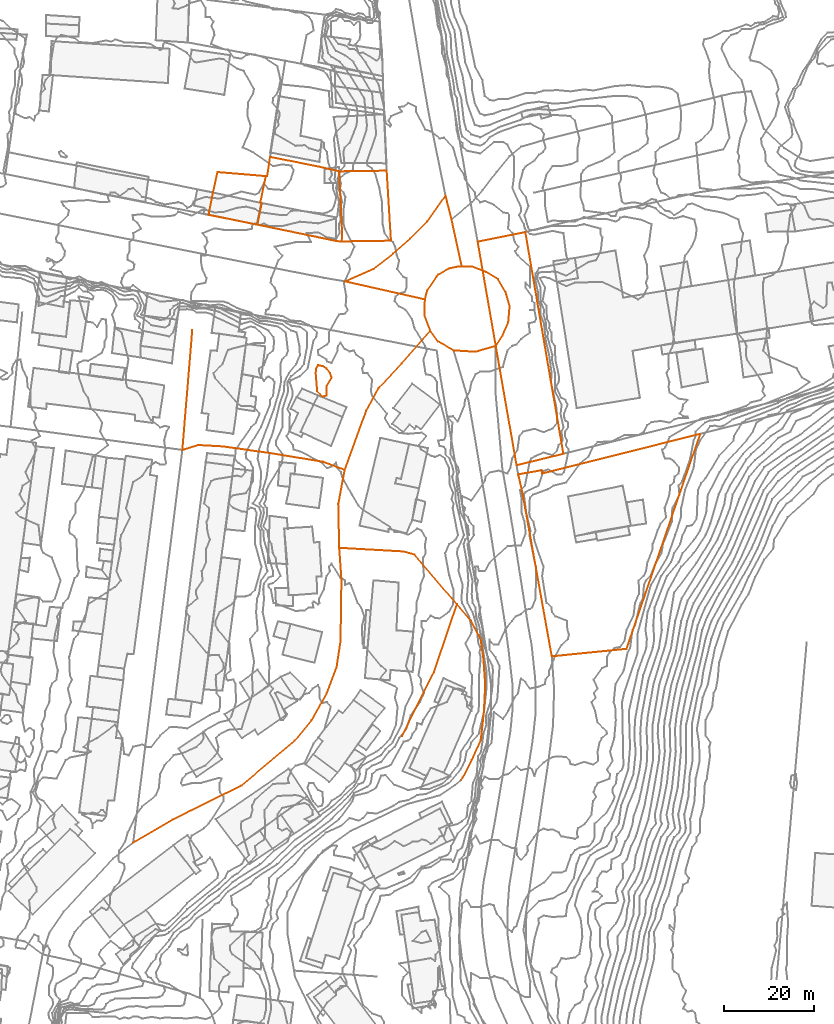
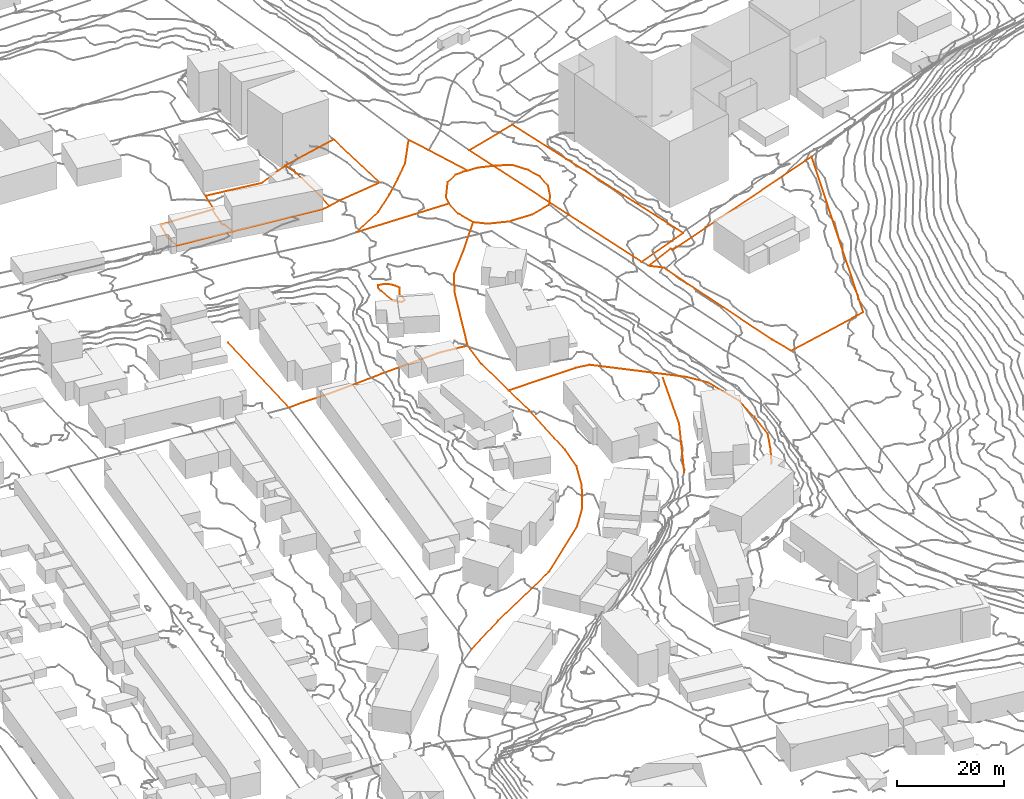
# Not in any storey, part 333 of 419: 23 proxies.
"""IFC2X3 model written with IfcOpenShell, lengths in metres."""

from ifc_helpers import new_model, entity, si_unit, frame, origin_with_axes, place, context, subcontext, project, element, save


model = new_model("IFC2X3")

# Units and contexts
model_context = context("Model", 3, precision=1e-05, world=origin_with_axes())
body_context = subcontext(model_context, "Body", "Model", "MODEL_VIEW")
ifc_project = project(units=[si_unit("AREAUNIT", "SQUARE_METRE"), si_unit("LENGTHUNIT", "METRE")], contexts=[model_context])

# Proxies
proxy_1_placement = place(None, frame((635.1920204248, 821.8976909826, 50.0), z_axis=(0.0, 0.0, 1.0), x_axis=(1.0, 0.0, 0.0)))
element("IfcBuildingElementProxy", 1, at=proxy_1_placement, Name="Route 21", ObjectType="NOTDEFINED", context=body_context, shape_type="GeometricCurveSet", body=[
    entity("IfcGeometricCurveSet", [entity("IfcPolyline", [entity("IfcCartesianPoint", [0.0, 0.0, 0.0]), entity("IfcCartesianPoint", [4.8, -0.2999999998, 0.1]), entity("IfcCartesianPoint", [9.3, 1.0, 0.0])])]),
])
proxy_2_placement = place(None, frame((634.6920204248, 850.9976909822, 48.8), z_axis=(0.0, 0.0, 1.0), x_axis=(1.0, 0.0, 0.0)))
element("IfcBuildingElementProxy", 2, at=proxy_2_placement, Name="Route 41", ObjectType="NOTDEFINED", context=body_context, shape_type="GeometricCurveSet", body=[
    entity("IfcGeometricCurveSet", [entity("IfcPolyline", [entity("IfcCartesianPoint", [0.0, 0.0, 0.0]), entity("IfcCartesianPoint", [2.3, -10.5, 0.9])])]),
])
proxy_3_placement = place(None, frame((564.0920204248, 712.6976909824, 43.5), z_axis=(0.0, 0.0, 1.0), x_axis=(1.0, 0.0, 0.0)))
element("IfcBuildingElementProxy", 3, at=proxy_3_placement, Name="Route 69", ObjectType="NOTDEFINED", context=body_context, shape_type="GeometricCurveSet", body=[
    entity("IfcGeometricCurveSet", [entity("IfcPolyline", [entity("IfcCartesianPoint", [45.7, 65.4000000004, 3.4]), entity("IfcCartesianPoint", [46.2, 58.5, 2.9]), entity("IfcCartesianPoint", [46.0, 44.7000000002, 2.3]), entity("IfcCartesianPoint", [45.1, 38.9000000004, 2.4]), entity("IfcCartesianPoint", [42.9, 33.1000000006, 2.4]), entity("IfcCartesianPoint", [39.6, 27.2000000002, 1.8]), entity("IfcCartesianPoint", [35.8, 22.6000000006, 1.7]), entity("IfcCartesianPoint", [24.0, 12.7000000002, 1.5]), entity("IfcCartesianPoint", [8.7, 5.1000000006, 0.4]), entity("IfcCartesianPoint", [0.0, 0.0, 0.0])])]),
])
proxy_4_placement = place(None, frame((611.0920204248, 837.1976909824, 46.7), z_axis=(0.0, 0.0, 1.0), x_axis=(1.0, 0.0, 0.0)))
element("IfcBuildingElementProxy", 4, at=proxy_4_placement, Name="Route 80", ObjectType="NOTDEFINED", context=body_context, shape_type="GeometricCurveSet", body=[
    entity("IfcGeometricCurveSet", [entity("IfcPolyline", [entity("IfcCartesianPoint", [0.0, 0.0, 0.0]), entity("IfcCartesianPoint", [6.3, 2.7999999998, 0.7]), entity("IfcCartesianPoint", [10.7, 6.2000000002, 1.1]), entity("IfcCartesianPoint", [14.4, 9.5, 1.3]), entity("IfcCartesianPoint", [18.2, 13.2999999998, 1.4]), entity("IfcCartesianPoint", [22.3, 19.1000000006, 1.7])])]),
])
proxy_5_placement = place(None, frame((609.5920204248, 787.7976909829, 47.1), z_axis=(0.0, 0.0, 1.0), x_axis=(1.0, 0.0, 0.0)))
element("IfcBuildingElementProxy", 5, at=proxy_5_placement, Name="Route 88", ObjectType="NOTDEFINED", context=body_context, shape_type="GeometricCurveSet", body=[
    entity("IfcGeometricCurveSet", [entity("IfcPolyline", [entity("IfcCartesianPoint", [1.4, 7.5999999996, -0.9]), entity("IfcCartesianPoint", [0.0, 0.0, 0.0]), entity("IfcCartesianPoint", [0.2, -9.7000000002, -0.2])])]),
])
proxy_6_placement = place(None, frame((628.7920204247, 833.1976909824, 49.5), z_axis=(0.0, 0.0, 1.0), x_axis=(1.0, 0.0, 0.0)))
element("IfcBuildingElementProxy", 6, at=proxy_6_placement, Name="Route 108", ObjectType="NOTDEFINED", context=body_context, shape_type="GeometricCurveSet", body=[
    entity("IfcGeometricCurveSet", [entity("IfcPolyline", [entity("IfcCartesianPoint", [8.2000000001, 7.2999999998, 0.2]), entity("IfcCartesianPoint", [7.3, 7.2999999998, 0.3]), entity("IfcCartesianPoint", [5.4, 6.9000000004, 0.5]), entity("IfcCartesianPoint", [2.9, 5.5, 0.5]), entity("IfcCartesianPoint", [2.6000000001, 5.1000000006, 0.4]), entity("IfcCartesianPoint", [0.5, 2.0, 0.1]), entity("IfcCartesianPoint", [0.0, 0.0, 0.0])])]),
])
proxy_7_placement = place(None, frame((623.6920204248, 736.3976909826, 48.6330005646), z_axis=(0.0, 0.0, 1.0), x_axis=(1.0, 0.0, 0.0)))
element("IfcBuildingElementProxy", 7, at=proxy_7_placement, Name="Route 127", ObjectType="NOTDEFINED", context=body_context, shape_type="GeometricCurveSet", body=[
    entity("IfcGeometricCurveSet", [entity("IfcPolyline", [entity("IfcCartesianPoint", [12.2000000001, 29.2000000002, -0.2951998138]), entity("IfcCartesianPoint", [7.1, 14.2000000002, 0.0329982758]), entity("IfcCartesianPoint", [0.0, 0.0, 0.0])])]),
])
proxy_8_placement = place(None, frame((635.8920204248, 765.5976909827, 49.1), z_axis=(0.0, 0.0, 1.0), x_axis=(1.0, 0.0, 0.0)))
element("IfcBuildingElementProxy", 8, at=proxy_8_placement, Name="Route 128", ObjectType="NOTDEFINED", context=body_context, shape_type="GeometricCurveSet", body=[
    entity("IfcGeometricCurveSet", [entity("IfcPolyline", [entity("IfcCartesianPoint", [0.8999999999, -39.0, 2.8]), entity("IfcCartesianPoint", [1.2999999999, -38.5, 2.8]), entity("IfcCartesianPoint", [3.2999999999, -34.6000000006, 2.8]), entity("IfcCartesianPoint", [5.2999999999, -30.1000000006, 2.8]), entity("IfcCartesianPoint", [6.0, -23.9000000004, 2.6]), entity("IfcCartesianPoint", [6.2999999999, -17.7999999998, 2.4]), entity("IfcCartesianPoint", [5.8999999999, -12.2000000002, 1.4]), entity("IfcCartesianPoint", [5.2999999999, -7.7999999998, 0.9]), entity("IfcCartesianPoint", [4.7999999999, -6.7999999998, 0.8]), entity("IfcCartesianPoint", [3.1, -3.6000000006, 0.4]), entity("IfcCartesianPoint", [0.0, 0.0, 0.0])])]),
])
proxy_9_placement = place(None, frame((574.9920204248, 799.7976909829, 42.0), z_axis=(0.0, 0.0, 1.0), x_axis=(1.0, 0.0, 0.0)))
element("IfcBuildingElementProxy", 9, at=proxy_9_placement, Name="Route 131", ObjectType="NOTDEFINED", context=body_context, shape_type="GeometricCurveSet", body=[
    entity("IfcGeometricCurveSet", [entity("IfcPolyline", [entity("IfcCartesianPoint", [36.0, -4.4000000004, 4.2]), entity("IfcCartesianPoint", [31.1, -2.6000000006, 3.3]), entity("IfcCartesianPoint", [19.6, -0.7000000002, 1.3]), entity("IfcCartesianPoint", [8.9, 0.7999999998, -0.5]), entity("IfcCartesianPoint", [3.5, 1.0999999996, -0.7]), entity("IfcCartesianPoint", [0.0, 0.0, 0.0])])]),
])
proxy_10_placement = place(None, frame((609.7920204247, 778.0976909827, 46.9), z_axis=(0.0, 0.0, 1.0), x_axis=(1.0, 0.0, 0.0)))
element("IfcBuildingElementProxy", 10, at=proxy_10_placement, Name="Route 139", ObjectType="NOTDEFINED", context=body_context, shape_type="GeometricCurveSet", body=[
    entity("IfcGeometricCurveSet", [entity("IfcPolyline", [entity("IfcCartesianPoint", [26.1000000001, -12.5, 2.2]), entity("IfcCartesianPoint", [16.7000000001, -1.5, 0.9]), entity("IfcCartesianPoint", [14.2000000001, -0.7999999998, 0.7]), entity("IfcCartesianPoint", [0.0, 0.0, 0.0])])]),
])
proxy_11_placement = place(None, frame((628.6920204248, 829.6976909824, 49.4), z_axis=(0.0, 0.0, 1.0), x_axis=(1.0, 0.0, 0.0)))
element("IfcBuildingElementProxy", 11, at=proxy_11_placement, Name="Route 173", ObjectType="NOTDEFINED", context=body_context, shape_type="GeometricCurveSet", body=[
    entity("IfcGeometricCurveSet", [entity("IfcPolyline", [entity("IfcCartesianPoint", [0.1, 3.5, 0.1]), entity("IfcCartesianPoint", [0.0, 0.0, 0.0]), entity("IfcCartesianPoint", [1.3, -3.3999999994, -0.4])])]),
])
proxy_12_placement = place(None, frame((636.9920204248, 840.4976909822, 49.7), z_axis=(0.0, 0.0, 1.0), x_axis=(1.0, 0.0, 0.0)))
element("IfcBuildingElementProxy", 12, at=proxy_12_placement, Name="Route 195", ObjectType="NOTDEFINED", context=body_context, shape_type="GeometricCurveSet", body=[
    entity("IfcGeometricCurveSet", [entity("IfcPolyline", [entity("IfcCartesianPoint", [7.5, -17.5999999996, 0.3]), entity("IfcCartesianPoint", [9.0, -15.2999999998, 0.4]), entity("IfcCartesianPoint", [10.2999999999, -12.2999999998, 0.4]), entity("IfcCartesianPoint", [10.6, -8.7999999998, 0.3]), entity("IfcCartesianPoint", [9.7, -5.5999999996, 0.2]), entity("IfcCartesianPoint", [8.0, -2.7999999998, 0.2]), entity("IfcCartesianPoint", [5.4, -1.1999999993, 0.0]), entity("IfcCartesianPoint", [2.2999999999, 0.0, -0.1]), entity("IfcCartesianPoint", [0.0, 0.0, 0.0])])]),
])
proxy_13_placement = place(None, frame((633.3920204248, 856.2976909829, 48.4), z_axis=(0.0, 0.0, 1.0), x_axis=(1.0, 0.0, 0.0)))
element("IfcBuildingElementProxy", 13, at=proxy_13_placement, Name="Route 212", ObjectType="NOTDEFINED", context=body_context, shape_type="GeometricCurveSet", body=[
    entity("IfcGeometricCurveSet", [entity("IfcPolyline", [entity("IfcCartesianPoint", [0.0, 0.0, 0.0]), entity("IfcCartesianPoint", [1.2999999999, -5.3000000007, 0.4])])]),
])
proxy_14_placement = place(None, frame((610.9920204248, 795.3976909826, 46.2), z_axis=(0.0, 0.0, 1.0), x_axis=(1.0, 0.0, 0.0)))
element("IfcBuildingElementProxy", 14, at=proxy_14_placement, Name="Route 227", ObjectType="NOTDEFINED", context=body_context, shape_type="GeometricCurveSet", body=[
    entity("IfcGeometricCurveSet", [entity("IfcPolyline", [entity("IfcCartesianPoint", [19.0, 30.9000000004, 2.8]), entity("IfcCartesianPoint", [12.6, 23.5999999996, 2.7]), entity("IfcCartesianPoint", [7.5, 18.0999999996, 2.7]), entity("IfcCartesianPoint", [4.7999999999, 13.2000000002, 2.5]), entity("IfcCartesianPoint", [0.0, 0.0, 0.0])])]),
])
proxy_15_placement = place(None, frame((629.9920204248, 826.2976909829, 49.0), z_axis=(0.0, 0.0, 1.0), x_axis=(1.0, 0.0, 0.0)))
element("IfcBuildingElementProxy", 15, at=proxy_15_placement, Name="Route 271", ObjectType="NOTDEFINED", context=body_context, shape_type="GeometricCurveSet", body=[
    entity("IfcGeometricCurveSet", [entity("IfcPolyline", [entity("IfcCartesianPoint", [0.0, 0.0, 0.0]), entity("IfcCartesianPoint", [1.7, -2.4000000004, 0.5]), entity("IfcCartesianPoint", [5.2, -4.4000000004, 1.0])])]),
])
proxy_16_placement = place(None, frame((611.0920204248, 837.1976909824, 46.7), z_axis=(0.0, 0.0, 1.0), x_axis=(1.0, 0.0, 0.0)))
element("IfcBuildingElementProxy", 16, at=proxy_16_placement, Name="Route 283", ObjectType="NOTDEFINED", context=body_context, shape_type="GeometricCurveSet", body=[
    entity("IfcGeometricCurveSet", [entity("IfcPolyline", [entity("IfcCartesianPoint", [17.7, -4.0, 2.8]), entity("IfcCartesianPoint", [0.0, 0.0, 0.0])])]),
])
proxy_17_placement = place(None, frame((574.9920204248, 799.7976909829, 42.0), z_axis=(0.0, 0.0, 1.0), x_axis=(1.0, 0.0, 0.0)))
element("IfcBuildingElementProxy", 17, at=proxy_17_placement, Name="Route 306", ObjectType="NOTDEFINED", context=body_context, shape_type="GeometricCurveSet", body=[
    entity("IfcGeometricCurveSet", [entity("IfcPolyline", [entity("IfcCartesianPoint", [0.0, 0.0, 0.0]), entity("IfcCartesianPoint", [2.2, 26.5999999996, -2.1])])]),
])
proxy_18_placement = place(None, frame((580.8020204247, 851.9476909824, 45.322770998), z_axis=(0.0, 0.0, 1.0), x_axis=(1.0, 0.0, 0.0)))
element("IfcBuildingElementProxy", 18, at=proxy_18_placement, Name="Cadastre 65", ObjectType="NOTDEFINED", context=body_context, shape_type="GeometricCurveSet", body=[
    entity("IfcGeometricCurveSet", [entity("IfcPolyline", [entity("IfcCartesianPoint", [12.7000000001, 8.6100000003, -1.4391836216]), entity("IfcCartesianPoint", [11.4800000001, 2.7600000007, -0.8925592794]), entity("IfcCartesianPoint", [11.8, 2.6900000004, -0.9567672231]), entity("IfcCartesianPoint", [10.8600000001, -2.1600000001, 0.7387439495]), entity("IfcCartesianPoint", [10.66, -2.1200000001, 0.7236130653]), entity("IfcCartesianPoint", [0.0, 0.0, 0.0]), entity("IfcCartesianPoint", [0.9800000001, 4.9900000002, -1.5328972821]), entity("IfcCartesianPoint", [1.9800000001, 9.5, -1.6952654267]), entity("IfcCartesianPoint", [12.7000000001, 8.6100000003, -1.4391836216])])]),
])
proxy_19_placement = place(None, frame((591.6620204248, 849.7876909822, 46.0615149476), z_axis=(0.0, 0.0, 1.0), x_axis=(1.0, 0.0, 0.0)))
element("IfcBuildingElementProxy", 19, at=proxy_19_placement, Name="Cadastre 66", ObjectType="NOTDEFINED", context=body_context, shape_type="GeometricCurveSet", body=[
    entity("IfcGeometricCurveSet", [entity("IfcPolyline", [entity("IfcCartesianPoint", [2.7799999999, 15.0300000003, -1.9556256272]), entity("IfcCartesianPoint", [13.6799999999, 12.8600000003, -1.5340143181]), entity("IfcCartesianPoint", [18.11, 11.8300000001, 1.5006694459]), entity("IfcCartesianPoint", [18.2899999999, 8.3300000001, 2.0968533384]), entity("IfcCartesianPoint", [18.74, -1.0899999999, 1.6597547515]), entity("IfcCartesianPoint", [18.7, -3.75, 1.5313603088]), entity("IfcCartesianPoint", [17.38, -3.6299999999, 1.2340843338]), entity("IfcCartesianPoint", [0.0, 0.0, 0.0]), entity("IfcCartesianPoint", [0.9399999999, 4.8500000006, -1.6955111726]), entity("IfcCartesianPoint", [0.62, 4.9200000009, -1.6313032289]), entity("IfcCartesianPoint", [1.84, 10.7700000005, -2.1779275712]), entity("IfcCartesianPoint", [2.1399999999, 10.7400000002, -2.1677422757]), entity("IfcCartesianPoint", [2.7799999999, 15.0300000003, -1.9556256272])])]),
])
proxy_20_placement = place(None, frame((609.7720204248, 861.6176909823, 47.5621843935), z_axis=(0.0, 0.0, 1.0), x_axis=(1.0, 0.0, 0.0)))
element("IfcBuildingElementProxy", 20, at=proxy_20_placement, Name="Cadastre 72", ObjectType="NOTDEFINED", context=body_context, shape_type="GeometricCurveSet", body=[
    entity("IfcGeometricCurveSet", [entity("IfcPolyline", [entity("IfcCartesianPoint", [10.5499999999, 0.1500000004, 2.2154192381]), entity("IfcCartesianPoint", [11.51, -15.3799999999, 1.4319358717]), entity("IfcCartesianPoint", [2.9199999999, -15.5099999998, 0.492515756]), entity("IfcCartesianPoint", [0.59, -15.5800000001, 0.0306908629]), entity("IfcCartesianPoint", [0.63, -12.9199999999, 0.1590853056]), entity("IfcCartesianPoint", [0.1799999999, -3.5, 0.5961838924]), entity("IfcCartesianPoint", [0.0, 0.0, 0.0]), entity("IfcCartesianPoint", [10.5499999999, 0.1500000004, 2.2154192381])])]),
])
proxy_21_placement = place(None, frame((640.5120204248, 846.0276909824, 49.7531914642), z_axis=(0.0, 0.0, 1.0), x_axis=(1.0, 0.0, 0.0)))
element("IfcBuildingElementProxy", 21, at=proxy_21_placement, Name="Cadastre 77", ObjectType="NOTDEFINED", context=body_context, shape_type="GeometricCurveSet", body=[
    entity("IfcGeometricCurveSet", [entity("IfcPolyline", [entity("IfcCartesianPoint", [10.58, 2.1400000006, 0.8468086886]), entity("IfcCartesianPoint", [19.01, -47.0499999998, 3.0059785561]), entity("IfcCartesianPoint", [8.63, -49.5999999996, 1.5941545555]), entity("IfcCartesianPoint", [0.0, 0.0, 0.0]), entity("IfcCartesianPoint", [10.58, 2.1400000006, 0.8468086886])])]),
])
proxy_22_placement = place(None, frame((649.5120204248, 794.4076909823, 51.5433078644), z_axis=(0.0, 0.0, 1.0), x_axis=(1.0, 0.0, 0.0)))
element("IfcBuildingElementProxy", 22, at=proxy_22_placement, Name="Cadastre 78", ObjectType="NOTDEFINED", context=body_context, shape_type="GeometricCurveSet", body=[
    entity("IfcGeometricCurveSet", [entity("IfcPolyline", [entity("IfcCartesianPoint", [7.46, -40.3700000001, 2.4702282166]), entity("IfcCartesianPoint", [6.48, -34.9499999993, 2.0666530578]), entity("IfcCartesianPoint", [2.15, -10.8300000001, 1.6936250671]), entity("IfcCartesianPoint", [0.9299999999, -4.0499999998, 1.7111119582]), entity("IfcCartesianPoint", [0.0, 0.0, 0.0]), entity("IfcCartesianPoint", [5.22, 0.9199999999, 1.5341732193]), entity("IfcCartesianPoint", [5.2999999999, 0.1900000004, 1.6609313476]), entity("IfcCartesianPoint", [40.36, 8.9800000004, 5.3540535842]), entity("IfcCartesianPoint", [23.98, -38.71, 4.4841916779]), entity("IfcCartesianPoint", [7.46, -40.3700000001, 2.4702282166])])]),
])
proxy_23_placement = place(None, frame((604.5747754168, 816.8976909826, 48.0), z_axis=(0.0, 0.0, 1.0), x_axis=(1.0, 0.0, 0.0)))
element("IfcBuildingElementProxy", 23, at=proxy_23_placement, Name="Contour 48.0 m", ObjectType="NOTDEFINED", context=body_context, shape_type="GeometricCurveSet", body=[
    entity("IfcGeometricCurveSet", [entity("IfcPolyline", [entity("IfcCartesianPoint", [2.3744112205, -5.0, 0.0]), entity("IfcCartesianPoint", [1.517245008, -5.2222269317, 0.0]), entity("IfcCartesianPoint", [0.3297524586, -4.0, 0.0]), entity("IfcCartesianPoint", [0.0, 0.0, 0.0]), entity("IfcCartesianPoint", [0.0930018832, 1.0, 0.0]), entity("IfcCartesianPoint", [0.517245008, 1.6999942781, 0.0]), entity("IfcCartesianPoint", [1.517245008, 1.5294064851, 0.0]), entity("IfcCartesianPoint", [2.4172602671, 1.0, 0.0]), entity("IfcCartesianPoint", [3.1839540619, 0.0, 0.0]), entity("IfcCartesianPoint", [3.517245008, -0.999900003, 0.0]), entity("IfcCartesianPoint", [2.3744112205, -3.0, 0.0]), entity("IfcCartesianPoint", [2.3744112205, -5.0, 0.0])])]),
])

save(model, "model.ifc")
